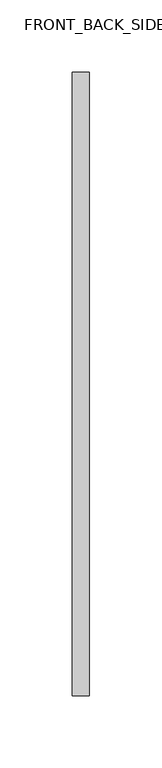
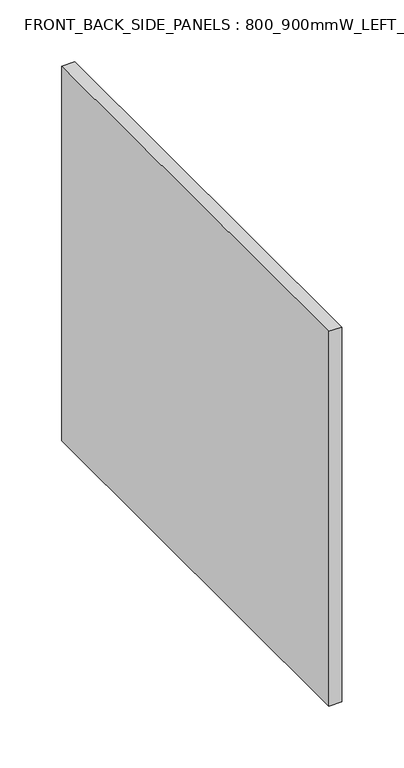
"""IFC4 building model written with IfcOpenShell, lengths in millimetres: furniture geometry, FRONT_BACK_SIDE_PANELS : 800_900mmW_LEFT_SIDE_PANEL."""

from ifc_helpers import new_model, si_unit, frame, origin, place, context, project, spatial, polyline, outline, extrude, source, transform, mapped, element, save


def front_back_side_panels_800_900mmw_left_side_panel_15f0126c(model_context):
    return source(origin(), model_context, "Body", "SweptSolid", [
        extrude(outline(polyline([(-400.0, -214.7757931), (-412.0, -214.7757931), (-412.0, 217.1931665), (-400.0, 217.1931665), (-400.0, -214.7757931)])), frame((0.0, 0.0, 808.0), z_axis=(0.0, 0.0, 1.0), x_axis=(1.0, 0.0, 0.0)), (0.0, 0.0, 1.0), 370.0),
    ])


if __name__ == "__main__":
    model = new_model("IFC4")
    model_context = context("Model", 3, world=origin())
    ifc_project = project(units=[si_unit("LENGTHUNIT", "METRE", prefix="MILLI")], contexts=[model_context])
    site = spatial("IfcSite", under=ifc_project)
    building = spatial("IfcBuilding", under=site)
    placement = place(None, origin())
    front_back_side_panels_800_900mmw_left_side_panel_shape = front_back_side_panels_800_900mmw_left_side_panel_15f0126c(model_context)
    element("IfcFurniture", 1, ObjectType="FRONT_BACK_SIDE_PANELS : 800_900mmW_LEFT_SIDE_PANEL", at=placement, inside=building, context=model_context, shape_type="MappedRepresentation", body=[
        mapped(front_back_side_panels_800_900mmw_left_side_panel_shape, transform((0.0, 0.0, 0.0), x_axis=(1.0, 0.0, 0.0), y_axis=(0.0, 1.0, 0.0), z_axis=(0.0, 0.0, 1.0))),
    ])
    save(model, "model.ifc")
